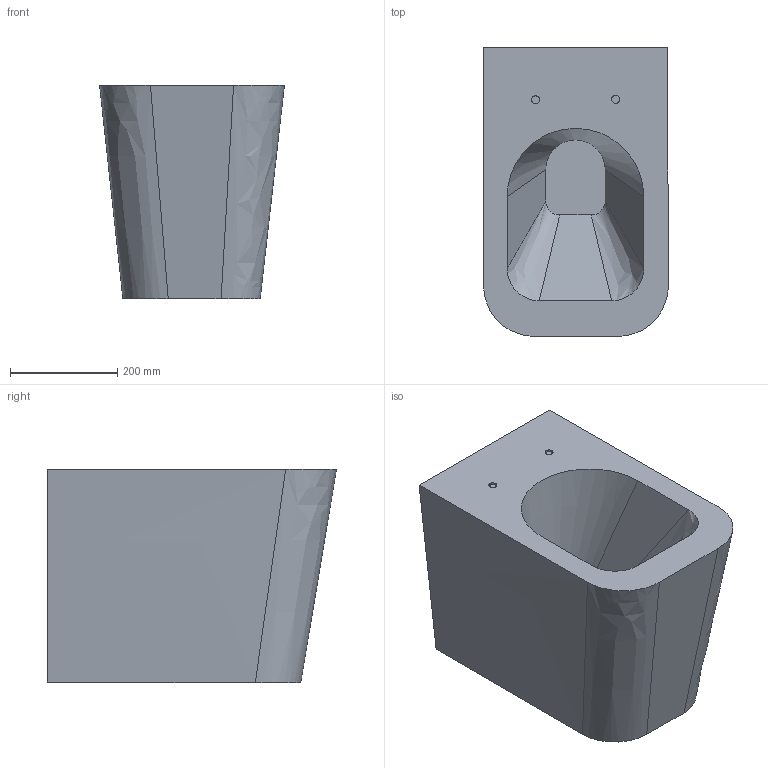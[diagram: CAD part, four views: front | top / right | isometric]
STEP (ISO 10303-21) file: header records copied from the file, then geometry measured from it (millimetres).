
FILE_DESCRIPTION(('FreeCAD Model'),'2;1');
FILE_NAME('Open CASCADE Shape Model','2025-05-30T21:09:27',(''),(''), 'Open CASCADE STEP processor 7.8','FreeCAD','Unknown');
FILE_SCHEMA(('AUTOMOTIVE_DESIGN { 1 0 10303 214 1 1 1 1 }'));
Length unit declared in the file: millimetre
Products named in the file (2): TopLevelAssembly; Po\X2\01420105\X0\czona geometria bry\X2\0142\X0\owa
Assembly tree (1 placements, depth 2):
  TopLevelAssembly
    Po\X2\01420105\X0\czona geometria bry\X2\0142\X0\owa
Bounding box: 345.39 x 540 x 398.25 mm (x, y, z)
Volume: 50752688.4 mm3; surface area: 1027474 mm2
Topology: 1 solids, 1 shells, 21 faces, 48 edges, 32 vertices
Faces by surface type: plane 10, bspline 7, cylinder 4
Entity records: 832 total; most frequent: CARTESIAN_POINT 316, DIRECTION 98, ORIENTED_EDGE 96, EDGE_CURVE 48, AXIS2_PLACEMENT_3D 34, VERTEX_POINT 32, LINE 30, VECTOR 30
